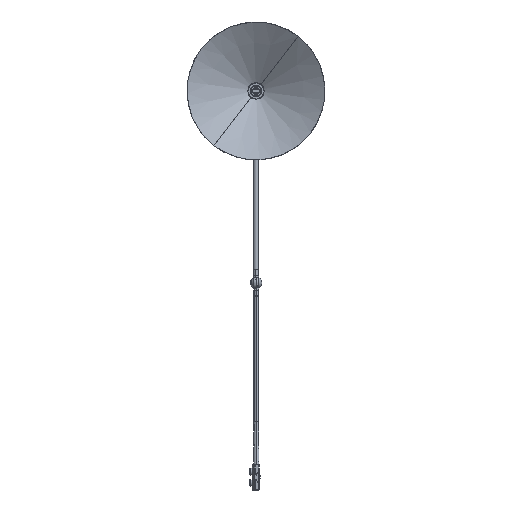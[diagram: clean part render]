
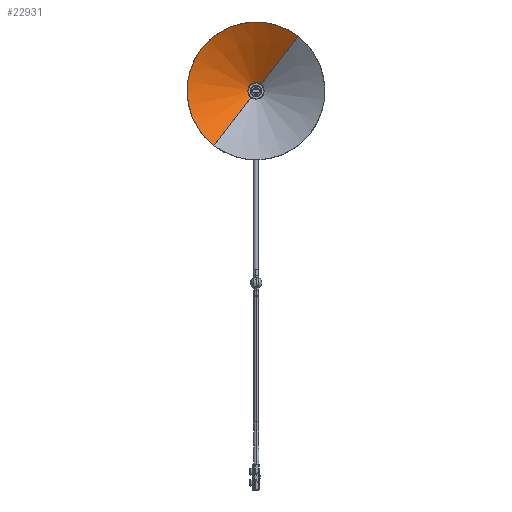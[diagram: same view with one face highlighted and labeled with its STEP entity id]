
A CAD part, left-side view. The second image highlights one B-rep face of the part: STEP entity #22931.
In plain terms, the highlighted conical face has half-angle 59.061 degrees and reference radius 23.668 mm.
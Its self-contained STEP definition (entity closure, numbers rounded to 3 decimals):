
#849 = AXIS2_PLACEMENT_3D ( 'NONE', #13911, #28886, #11366 ) ;
#3309 = VECTOR ( 'NONE', #8533, 1000. ) ;
#3593 = EDGE_CURVE ( 'NONE', #10309, #25144, #21658, .T. ) ;
#3649 = ORIENTED_EDGE ( 'NONE', *, *, #30073, .T. ) ;
#3685 = DIRECTION ( 'NONE',  ( 0., 0., -1. ) ) ;
#4815 = VERTEX_POINT ( 'NONE', #5960 ) ;
#5086 = VERTEX_POINT ( 'NONE', #24306 ) ;
#5960 = CARTESIAN_POINT ( 'NONE',  ( 1.485, 0., -24.143 ) ) ;
#6210 = CARTESIAN_POINT ( 'NONE',  ( 1.2, 0., 0. ) ) ;
#8533 = DIRECTION ( 'NONE',  ( 0.514, 0., 0.858 ) ) ;
#10309 = VERTEX_POINT ( 'NONE', #28285 ) ;
#10862 = CARTESIAN_POINT ( 'NONE',  ( 1.485, 0., 0. ) ) ;
#11366 = DIRECTION ( 'NONE',  ( 0., 0., 1. ) ) ;
#12187 = EDGE_CURVE ( 'NONE', #4815, #10309, #19722, .T. ) ;
#13378 = DIRECTION ( 'NONE',  ( 0., 0., -1. ) ) ;
#13911 = CARTESIAN_POINT ( 'NONE',  ( 135., 0., 0. ) ) ;
#16126 = ORIENTED_EDGE ( 'NONE', *, *, #12187, .F. ) ;
#16283 = DIRECTION ( 'NONE',  ( 1., 0., 0. ) ) ;
#17118 = CIRCLE ( 'NONE', #24711, 24.143 ) ;
#18189 = DIRECTION ( 'NONE',  ( 0.514, 0., -0.858 ) ) ;
#19722 = LINE ( 'NONE', #28242, #26399 ) ;
#20166 = ORIENTED_EDGE ( 'NONE', *, *, #3593, .F. ) ;
#21658 = CIRCLE ( 'NONE', #849, 246.883 ) ;
#22497 = FACE_OUTER_BOUND ( 'NONE', #28673, .T. ) ;
#22931 = ADVANCED_FACE ( 'NONE', ( #22497 ), #28379, .F. ) ;
#24116 = EDGE_CURVE ( 'NONE', #5086, #25144, #29904, .T. ) ;
#24306 = CARTESIAN_POINT ( 'NONE',  ( 1.485, 0., 24.143 ) ) ;
#24711 = AXIS2_PLACEMENT_3D ( 'NONE', #10862, #28381, #13378 ) ;
#25144 = VERTEX_POINT ( 'NONE', #29580 ) ;
#26061 = CARTESIAN_POINT ( 'NONE',  ( 1.2, 0., 23.668 ) ) ;
#26399 = VECTOR ( 'NONE', #18189, 1000. ) ;
#28242 = CARTESIAN_POINT ( 'NONE',  ( 1.2, 0., -23.668 ) ) ;
#28285 = CARTESIAN_POINT ( 'NONE',  ( 135., 0., -246.883 ) ) ;
#28379 = CONICAL_SURFACE ( 'NONE', #29813, 23.668, 1.031 ) ;
#28381 = DIRECTION ( 'NONE',  ( -1., 0., 0. ) ) ;
#28673 = EDGE_LOOP ( 'NONE', ( #3649, #29226, #20166, #16126 ) ) ;
#28886 = DIRECTION ( 'NONE',  ( -1., 0., 0. ) ) ;
#29226 = ORIENTED_EDGE ( 'NONE', *, *, #24116, .T. ) ;
#29580 = CARTESIAN_POINT ( 'NONE',  ( 135., 0., 246.883 ) ) ;
#29813 = AXIS2_PLACEMENT_3D ( 'NONE', #6210, #16283, #3685 ) ;
#29904 = LINE ( 'NONE', #26061, #3309 ) ;
#30073 = EDGE_CURVE ( 'NONE', #4815, #5086, #17118, .T. ) ;
